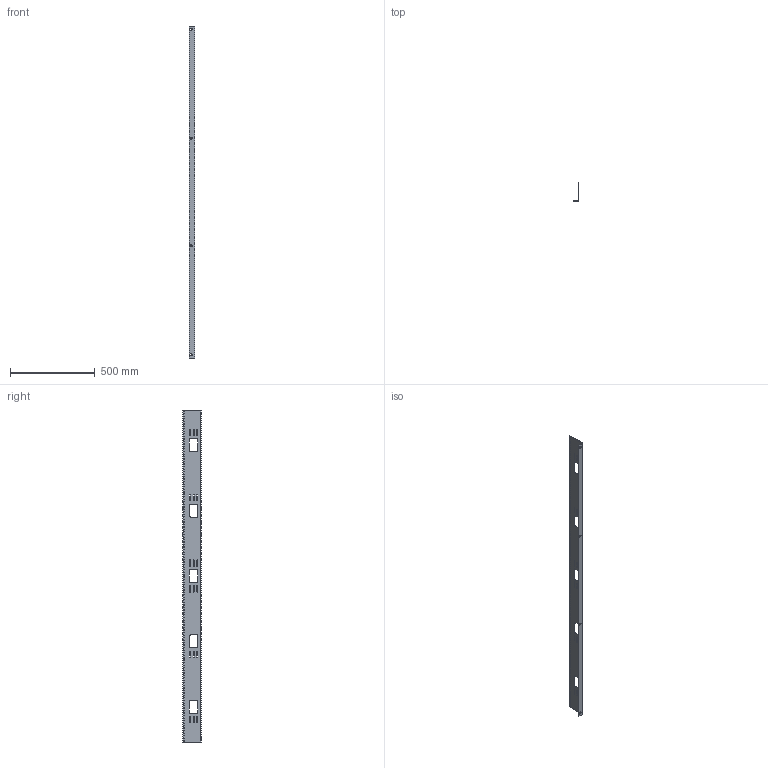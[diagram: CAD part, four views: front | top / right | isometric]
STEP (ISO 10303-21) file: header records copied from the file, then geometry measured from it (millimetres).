
FILE_DESCRIPTION( ( 'Unknown' ), '1' );
FILE_NAME( 'Q:/C4/WEB DRAWINGS/C4PR_AR/STEP/C4PR77TZPL.stp', 'Unknown', ( 'Unknown' ), ( 'Unknown' ), 'PSStep 11.0', 'Unknown', ' ' );
FILE_SCHEMA( ( 'AUTOMOTIVE_DESIGN { 1 0 10303 214 1 1 1 1 }' ) );
Length unit declared in the file: inch
Products named in the file (1): 1
Bounding box: 34.92 x 111.02 x 1955.8 mm (x, y, z)
Volume: 796432.4 mm3; surface area: 530056.1 mm2
Topology: 1 solids, 1 shells, 270 faces, 936 edges, 668 vertices
Faces by surface type: cylinder 198, plane 72
Full cylindrical faces by diameter (mm): 4.496 x132
Entity records: 11416 total; most frequent: DIRECTION 1610, CARTESIAN_POINT 1479, ORIENTED_EDGE 1344, EDGE_LOOP 720, EDGE_CURVE 672, AXIS2_PLACEMENT_3D 667, VERTEX_POINT 536, FACE_OUTER_BOUND 402
